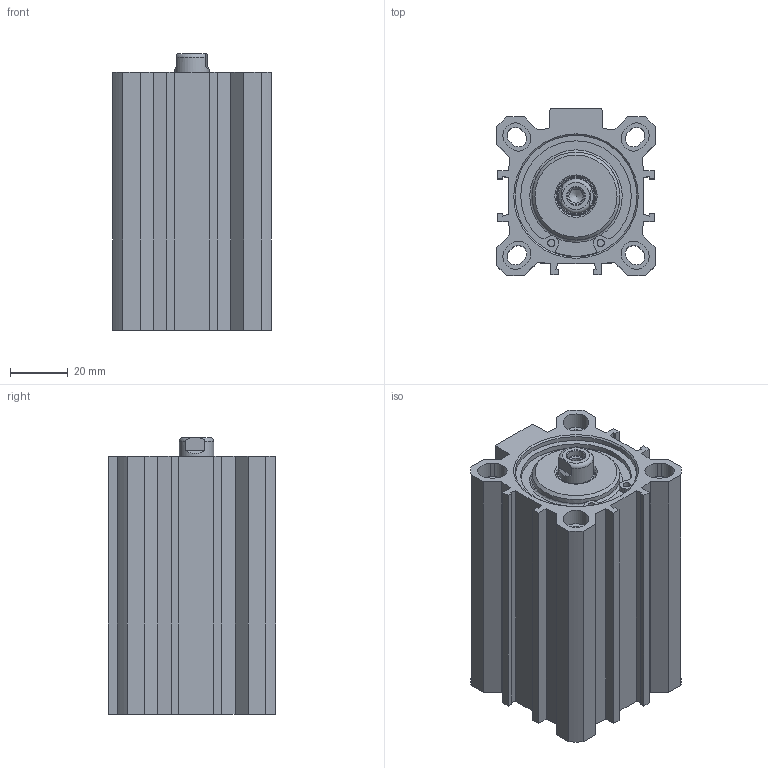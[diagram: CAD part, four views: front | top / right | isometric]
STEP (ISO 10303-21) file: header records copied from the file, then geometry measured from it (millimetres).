
FILE_DESCRIPTION(/* description */ ('Unknown'),/* implementation_level */ '2;1');
FILE_NAME(/* name */ 'FEN 40_40',/* time_stamp */ '2026-06-09T10:56:23+02:00',/* author */ ('Unknown'),/* organization */ ('Unknown'),/* preprocessor_version */ 'ST-DEVELOPER v18.102',/* originating_system */ 'Solid Edge',/* authorisation */ 'Unknown');
FILE_SCHEMA (('AUTOMOTIVE_DESIGN {1 0 10303 214 3 1 1}'));
Length unit declared in the file: millimetre
Products named in the file (5): FEN 40_40; Kolbenstange; Profilrohr; Kit_1; Kit_2
Assembly tree (4 placements, depth 2):
  FEN 40_40
    Kolbenstange
    Profilrohr
    Kit_1
    Kit_2
Bounding box: 55 x 58 x 96 mm (x, y, z)
Volume: 170454.4 mm3; surface area: 66454.6 mm2
Topology: 4 solids, 4 shells, 226 faces, 569 edges, 370 vertices
Faces by surface type: plane 129, cylinder 68, cone 18, torus 11
Full cylindrical faces by diameter (mm): 2.25 x2, 2.5 x4, 4.917 x2, 6.25 x1, 8.566 x4, 12 x1, 12.54 x1, 13.7 x1, 27.9 x1, 30.5 x1, 40 x2, 41.7 x4, 42.2 x2, 44.7 x2
Entity records: 8189 total; most frequent: CARTESIAN_POINT 1241, DIRECTION 1112, ORIENTED_EDGE 1000, EDGE_CURVE 500, AXIS2_PLACEMENT_3D 397, VERTEX_POINT 355, LINE 318, VECTOR 318
